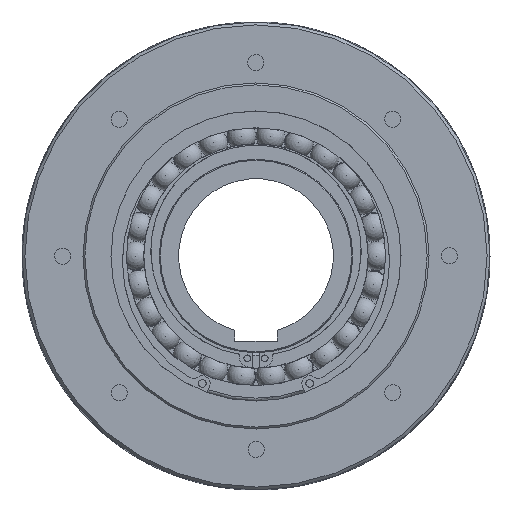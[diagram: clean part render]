
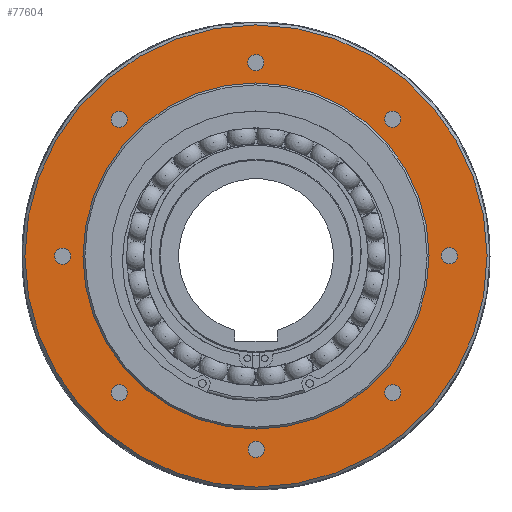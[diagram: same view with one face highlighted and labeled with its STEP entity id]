
A CAD part, left-side view. The second image highlights one B-rep face of the part: STEP entity #77604.
In plain terms, the highlighted planar face has unit normal (-1, 0, 0).
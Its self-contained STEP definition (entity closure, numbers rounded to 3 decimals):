
#14228=PLANE('',#87489);
#15940=FACE_BOUND('',#22533,.T.);
#15941=FACE_BOUND('',#22534,.T.);
#15942=FACE_BOUND('',#22535,.T.);
#15943=FACE_BOUND('',#22536,.T.);
#15944=FACE_BOUND('',#22537,.T.);
#15945=FACE_BOUND('',#22538,.T.);
#15946=FACE_BOUND('',#22539,.T.);
#15947=FACE_BOUND('',#22540,.T.);
#15948=FACE_BOUND('',#22541,.T.);
#18382=FACE_OUTER_BOUND('',#22532,.T.);
#22532=EDGE_LOOP('',(#63192));
#22533=EDGE_LOOP('',(#63193));
#22534=EDGE_LOOP('',(#63194));
#22535=EDGE_LOOP('',(#63195));
#22536=EDGE_LOOP('',(#63196));
#22537=EDGE_LOOP('',(#63197));
#22538=EDGE_LOOP('',(#63198));
#22539=EDGE_LOOP('',(#63199));
#22540=EDGE_LOOP('',(#63200));
#22541=EDGE_LOOP('',(#63201));
#26739=CIRCLE('',#87488,119.5);
#26740=CIRCLE('',#87490,4.188);
#26741=CIRCLE('',#87491,4.188);
#26742=CIRCLE('',#87492,4.188);
#26743=CIRCLE('',#87493,4.188);
#26744=CIRCLE('',#87494,4.188);
#26745=CIRCLE('',#87495,4.188);
#26746=CIRCLE('',#87496,4.188);
#26747=CIRCLE('',#87497,4.188);
#26748=CIRCLE('',#87498,89.5);
#33564=VERTEX_POINT('',#151500);
#33565=VERTEX_POINT('',#151503);
#33566=VERTEX_POINT('',#151505);
#33567=VERTEX_POINT('',#151507);
#33568=VERTEX_POINT('',#151509);
#33569=VERTEX_POINT('',#151511);
#33570=VERTEX_POINT('',#151513);
#33571=VERTEX_POINT('',#151515);
#33572=VERTEX_POINT('',#151517);
#33573=VERTEX_POINT('',#151519);
#43945=EDGE_CURVE('',#33564,#33564,#26739,.T.);
#43946=EDGE_CURVE('',#33565,#33565,#26740,.T.);
#43947=EDGE_CURVE('',#33566,#33566,#26741,.T.);
#43948=EDGE_CURVE('',#33567,#33567,#26742,.T.);
#43949=EDGE_CURVE('',#33568,#33568,#26743,.T.);
#43950=EDGE_CURVE('',#33569,#33569,#26744,.T.);
#43951=EDGE_CURVE('',#33570,#33570,#26745,.T.);
#43952=EDGE_CURVE('',#33571,#33571,#26746,.T.);
#43953=EDGE_CURVE('',#33572,#33572,#26747,.T.);
#43954=EDGE_CURVE('',#33573,#33573,#26748,.T.);
#63192=ORIENTED_EDGE('',*,*,#43945,.F.);
#63193=ORIENTED_EDGE('',*,*,#43946,.T.);
#63194=ORIENTED_EDGE('',*,*,#43947,.T.);
#63195=ORIENTED_EDGE('',*,*,#43948,.T.);
#63196=ORIENTED_EDGE('',*,*,#43949,.T.);
#63197=ORIENTED_EDGE('',*,*,#43950,.T.);
#63198=ORIENTED_EDGE('',*,*,#43951,.T.);
#63199=ORIENTED_EDGE('',*,*,#43952,.T.);
#63200=ORIENTED_EDGE('',*,*,#43953,.T.);
#63201=ORIENTED_EDGE('',*,*,#43954,.T.);
#77604=ADVANCED_FACE('',(#18382,#15940,#15941,#15942,#15943,#15944,#15945,
#15946,#15947,#15948),#14228,.T.);
#87488=AXIS2_PLACEMENT_3D('',#151501,#109229,#109230);
#87489=AXIS2_PLACEMENT_3D('',#151502,#109231,#109232);
#87490=AXIS2_PLACEMENT_3D('',#151504,#109233,#109234);
#87491=AXIS2_PLACEMENT_3D('',#151506,#109235,#109236);
#87492=AXIS2_PLACEMENT_3D('',#151508,#109237,#109238);
#87493=AXIS2_PLACEMENT_3D('',#151510,#109239,#109240);
#87494=AXIS2_PLACEMENT_3D('',#151512,#109241,#109242);
#87495=AXIS2_PLACEMENT_3D('',#151514,#109243,#109244);
#87496=AXIS2_PLACEMENT_3D('',#151516,#109245,#109246);
#87497=AXIS2_PLACEMENT_3D('',#151518,#109247,#109248);
#87498=AXIS2_PLACEMENT_3D('',#151520,#109249,#109250);
#109229=DIRECTION('center_axis',(1.,0.,0.));
#109230=DIRECTION('ref_axis',(0.,1.,-0.001));
#109231=DIRECTION('center_axis',(-1.,0.,0.));
#109232=DIRECTION('ref_axis',(0.,0.001,1.));
#109233=DIRECTION('center_axis',(1.,0.,0.));
#109234=DIRECTION('ref_axis',(0.,0.001,1.));
#109235=DIRECTION('center_axis',(1.,0.,0.));
#109236=DIRECTION('ref_axis',(0.,0.001,1.));
#109237=DIRECTION('center_axis',(1.,0.,0.));
#109238=DIRECTION('ref_axis',(0.,0.001,1.));
#109239=DIRECTION('center_axis',(1.,0.,0.));
#109240=DIRECTION('ref_axis',(0.,0.001,1.));
#109241=DIRECTION('center_axis',(1.,0.,0.));
#109242=DIRECTION('ref_axis',(0.,0.001,1.));
#109243=DIRECTION('center_axis',(1.,0.,0.));
#109244=DIRECTION('ref_axis',(0.,0.001,1.));
#109245=DIRECTION('center_axis',(1.,0.,0.));
#109246=DIRECTION('ref_axis',(0.,0.001,1.));
#109247=DIRECTION('center_axis',(1.,0.,0.));
#109248=DIRECTION('ref_axis',(0.,0.001,1.));
#109249=DIRECTION('center_axis',(1.,0.,0.));
#109250=DIRECTION('ref_axis',(0.,1.,-0.001));
#151500=CARTESIAN_POINT('',(-40.5,119.5,-0.104));
#151501=CARTESIAN_POINT('Origin',(-40.5,0.,0.));
#151502=CARTESIAN_POINT('Origin',(-40.5,104.5,-0.091));
#151503=CARTESIAN_POINT('',(-40.5,70.776,74.837));
#151504=CARTESIAN_POINT('Origin',(-40.5,70.772,70.649));
#151505=CARTESIAN_POINT('',(-40.5,0.091,104.188));
#151506=CARTESIAN_POINT('Origin',(-40.5,0.087,100.));
#151507=CARTESIAN_POINT('',(-40.5,-70.645,74.96));
#151508=CARTESIAN_POINT('Origin',(-40.5,-70.649,70.772));
#151509=CARTESIAN_POINT('',(-40.5,-99.996,4.275));
#151510=CARTESIAN_POINT('Origin',(-40.5,-100.,0.087));
#151511=CARTESIAN_POINT('',(-40.5,-70.769,-66.461));
#151512=CARTESIAN_POINT('Origin',(-40.5,-70.772,-70.649));
#151513=CARTESIAN_POINT('',(-40.5,-0.084,-95.812));
#151514=CARTESIAN_POINT('Origin',(-40.5,-0.087,-100.));
#151515=CARTESIAN_POINT('',(-40.5,70.653,-66.584));
#151516=CARTESIAN_POINT('Origin',(-40.5,70.649,-70.772));
#151517=CARTESIAN_POINT('',(-40.5,100.004,4.101));
#151518=CARTESIAN_POINT('Origin',(-40.5,100.,-0.087));
#151519=CARTESIAN_POINT('',(-40.5,89.5,-0.078));
#151520=CARTESIAN_POINT('Origin',(-40.5,0.,0.));
